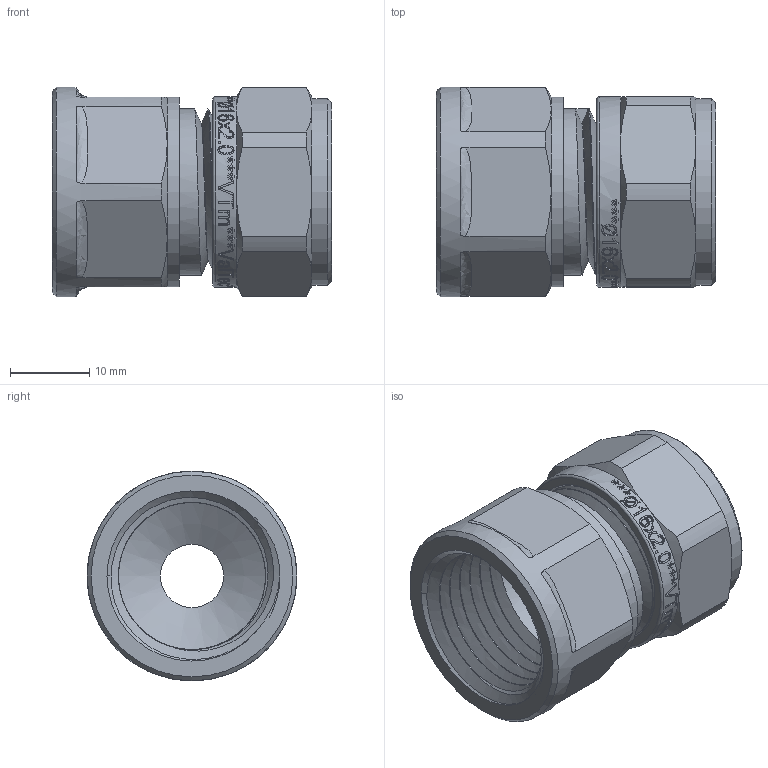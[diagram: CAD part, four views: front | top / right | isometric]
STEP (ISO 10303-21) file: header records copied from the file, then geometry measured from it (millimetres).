
FILE_DESCRIPTION(/* description */ (''),/* implementation_level */ '2;1');
FILE_NAME(/* name */ 'E:\Артём\00000\Работа удаленка\Обжимные фитинги\VTm.302.N.001604.stp',/* time_stamp */ '2020-06-08T13:25:18+03:00',/* author */ ('BeN_GaN'),/* organization */ (''),/* preprocessor_version */ 'ST-DEVELOPER v18',/* originating_system */ 'Autodesk Inventor 2020',/* authorisation */ '');
FILE_SCHEMA (('AUTOMOTIVE_DESIGN { 1 0 10303 214 3 1 1 }'));
Length unit declared in the file: millimetre
Products named in the file (1): VTm.302.N.001604
Bounding box: 35.27 x 26.5 x 26.51 mm (x, y, z)
Volume: 8524.5 mm3; surface area: 8546 mm2
Topology: 1 solids, 2 shells, 674 faces, 1887 edges, 1272 vertices
Faces by surface type: bspline 346, plane 188, cylinder 85, cone 30, torus 25
Full cylindrical faces by diameter (mm): 8 x1, 9.4 x2, 11.75 x4, 16.124 x4, 16.2 x1, 16.724 x5, 17.124 x1, 17.4 x1, 18.6 x6, 18.724 x1, 21 x1, 22.2 x7, 23.624 x1, 24 x1, 24.124 x1, 26.5 x1
Entity records: 30048 total; most frequent: CARTESIAN_POINT 14843, ORIENTED_EDGE 3774, DIRECTION 2117, EDGE_CURVE 1887, VERTEX_POINT 1272, LINE 769, VECTOR 769, B_SPLINE_CURVE_WITH_KNOTS 737
